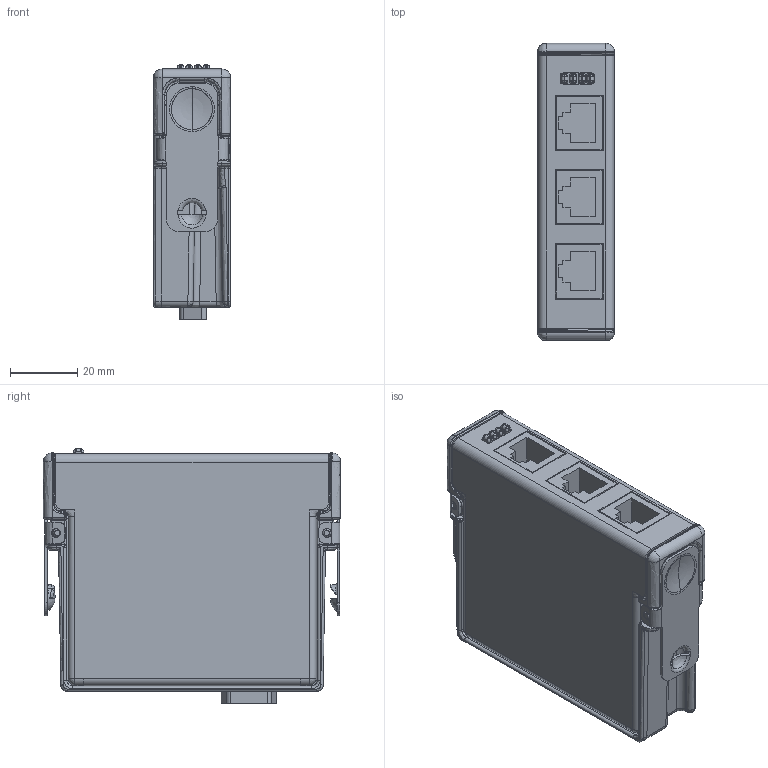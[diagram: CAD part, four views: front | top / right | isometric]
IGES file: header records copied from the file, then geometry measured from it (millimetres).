
Start section:  PTC IGES file: cu_crio-9469.igs
Global section: file name: cu_crio-9469.igs; native system: Pro/ENGINEER by Parametric Technology Corporation; preprocessor: 2011490; author: talbott; organization: Unknown; date: 20130225.132634; units: inch
Bounding box: 22.86 x 88.11 x 75.51 mm (x, y, z)
Surface area: 51993.5 mm2 (no closed solid volume)
Topology: 0 solids, 0 shells, 1296 faces, 6404 edges, 6343 vertices
Faces by surface type: bspline 637, revolution 616, extrusion 43
